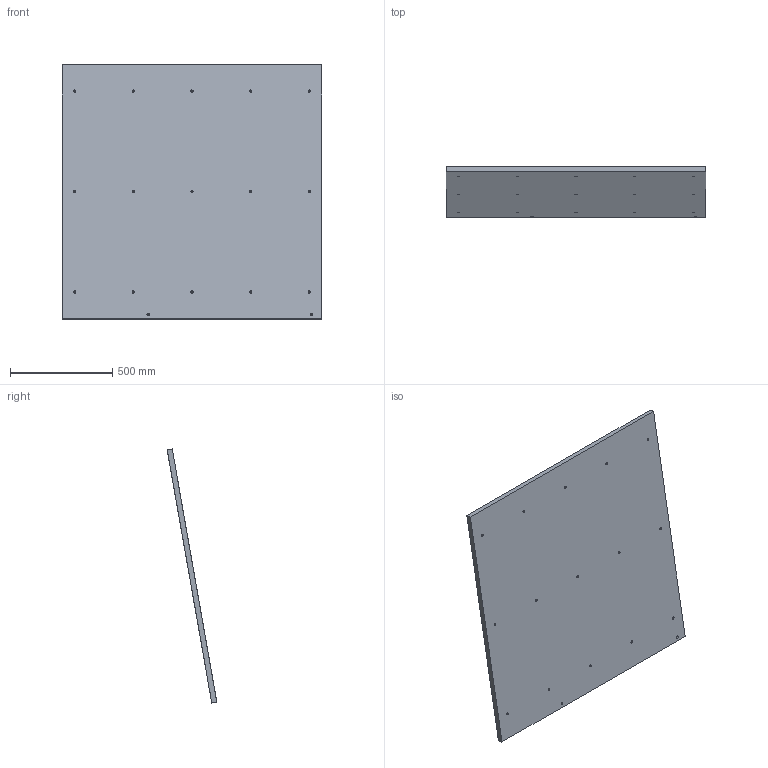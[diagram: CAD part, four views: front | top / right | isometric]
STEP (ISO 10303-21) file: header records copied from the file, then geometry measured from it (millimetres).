
FILE_DESCRIPTION(('golf model'),'2;1');
FILE_NAME('golf','',(''),(''),'golf_step_io','golf','');
FILE_SCHEMA(('AUTOMOTIVE_DESIGN { 1 0 10303 214 1 1 1 1 }'));
Length unit declared in the file: millimetre
Products named in the file (2): ASSEMBLY; bed.spoilboard.0
Assembly tree (1 placements, depth 2):
  ASSEMBLY
    bed.spoilboard.0
Bounding box: 1269.75 x 243.42 x 1245.2 mm (x, y, z)
Volume: 39978180.7 mm3; surface area: 3334420.3 mm2
Topology: 1 solids, 1 shells, 53 faces, 108 edges, 72 vertices
Faces by surface type: cylinder 32, plane 21
Full cylindrical faces by diameter (mm): 4.6 x15, 11 x15, 12 x2
Entity records: 1368 total; most frequent: DIRECTION 250, CARTESIAN_POINT 203, ORIENTED_EDGE 152, EDGE_LOOP 134, AXIS2_PLACEMENT_3D 119, FACE_BOUND 117, EDGE_CURVE 76, VERTEX_POINT 72
